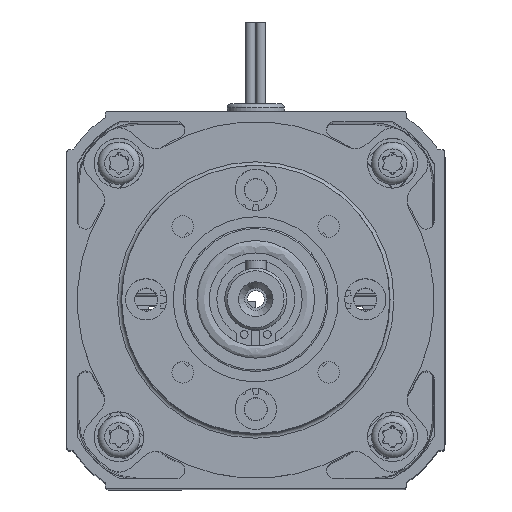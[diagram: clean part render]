
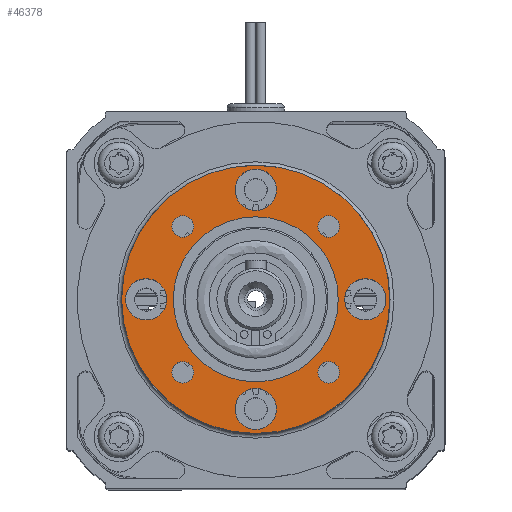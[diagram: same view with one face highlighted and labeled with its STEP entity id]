
A CAD part, top view. The second image highlights one B-rep face of the part: STEP entity #46378.
In plain terms, the highlighted planar face has unit normal (0, 0, 1).
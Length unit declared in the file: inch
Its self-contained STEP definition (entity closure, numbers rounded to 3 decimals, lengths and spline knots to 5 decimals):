
#1512 = EDGE_LOOP ( 'NONE', ( #5412 ) ) ;
#2035 = DIRECTION ( 'NONE',  ( 1., 0., 0. ) ) ;
#2067 = CIRCLE ( 'NONE', #36409, 0.08268 ) ;
#2649 = ORIENTED_EDGE ( 'NONE', *, *, #47899, .T. ) ;
#3218 = DIRECTION ( 'NONE',  ( 1., 0., 0. ) ) ;
#3232 = DIRECTION ( 'NONE',  ( 0., 0., -1. ) ) ;
#3391 = FACE_BOUND ( 'NONE', #35746, .T. ) ;
#3616 = VERTEX_POINT ( 'NONE', #16832 ) ;
#4902 = FACE_BOUND ( 'NONE', #28383, .T. ) ;
#5412 = ORIENTED_EDGE ( 'NONE', *, *, #28960, .T. ) ;
#5536 = EDGE_CURVE ( 'NONE', #41422, #41422, #2067, .T. ) ;
#6440 = FACE_BOUND ( 'NONE', #28326, .T. ) ;
#6777 = EDGE_CURVE ( 'NONE', #3616, #3616, #60656, .T. ) ;
#6897 = EDGE_LOOP ( 'NONE', ( #11897 ) ) ;
#8006 = EDGE_CURVE ( 'NONE', #39933, #39933, #53600, .T. ) ;
#8152 = VERTEX_POINT ( 'NONE', #55608 ) ;
#8517 = CARTESIAN_POINT ( 'NONE',  ( 0.15748, 0.83661, 3.043 ) ) ;
#9186 = CARTESIAN_POINT ( 'NONE',  ( 0., 0.83661, 3.043 ) ) ;
#10473 = ORIENTED_EDGE ( 'NONE', *, *, #6777, .T. ) ;
#11464 = CARTESIAN_POINT ( 'NONE',  ( 0.83661, 0., 3.043 ) ) ;
#11897 = ORIENTED_EDGE ( 'NONE', *, *, #52281, .T. ) ;
#12523 = DIRECTION ( 'NONE',  ( 0., 0., -1. ) ) ;
#12687 = CARTESIAN_POINT ( 'NONE',  ( 0.62992, 0., 3.043 ) ) ;
#13346 = VERTEX_POINT ( 'NONE', #51209 ) ;
#13567 = CIRCLE ( 'NONE', #33969, 0.15748 ) ;
#13977 = DIRECTION ( 'NONE',  ( 1., 0., 0. ) ) ;
#14616 = DIRECTION ( 'NONE',  ( 0., 0., -1. ) ) ;
#14753 = DIRECTION ( 'NONE',  ( 0., 0., -1. ) ) ;
#16033 = ORIENTED_EDGE ( 'NONE', *, *, #8006, .F. ) ;
#16160 = FACE_BOUND ( 'NONE', #32797, .T. ) ;
#16228 = DIRECTION ( 'NONE',  ( 1., 0., 0. ) ) ;
#16462 = CIRCLE ( 'NONE', #17689, 0.08268 ) ;
#16832 = CARTESIAN_POINT ( 'NONE',  ( 0.99409, 0., 3.043 ) ) ;
#17092 = VERTEX_POINT ( 'NONE', #45624 ) ;
#17269 = ORIENTED_EDGE ( 'NONE', *, *, #20666, .T. ) ;
#17511 = AXIS2_PLACEMENT_3D ( 'NONE', #58942, #30510, #2035 ) ;
#17689 = AXIS2_PLACEMENT_3D ( 'NONE', #40746, #12523, #45482 ) ;
#19207 = CARTESIAN_POINT ( 'NONE',  ( 0.55678, -0.55678, 3.043 ) ) ;
#19473 = AXIS2_PLACEMENT_3D ( 'NONE', #60072, #31635, #3218 ) ;
#20222 = EDGE_LOOP ( 'NONE', ( #17269 ) ) ;
#20666 = EDGE_CURVE ( 'NONE', #21485, #21485, #13567, .T. ) ;
#21485 = VERTEX_POINT ( 'NONE', #40693 ) ;
#21509 = DIRECTION ( 'NONE',  ( 0., 0., 1. ) ) ;
#21541 = CARTESIAN_POINT ( 'NONE',  ( 1.02362, 0., 3.043 ) ) ;
#22155 = CARTESIAN_POINT ( 'NONE',  ( -0.67913, 0., 3.043 ) ) ;
#22486 = EDGE_LOOP ( 'NONE', ( #10473 ) ) ;
#23964 = DIRECTION ( 'NONE',  ( 1., 0., 0. ) ) ;
#24494 = ORIENTED_EDGE ( 'NONE', *, *, #5536, .T. ) ;
#24981 = AXIS2_PLACEMENT_3D ( 'NONE', #9186, #42177, #13977 ) ;
#25285 = DIRECTION ( 'NONE',  ( 0., 0., -1. ) ) ;
#26247 = EDGE_LOOP ( 'NONE', ( #50419 ) ) ;
#27820 = EDGE_CURVE ( 'NONE', #29537, #29537, #60865, .T. ) ;
#28326 = EDGE_LOOP ( 'NONE', ( #44234 ) ) ;
#28383 = EDGE_LOOP ( 'NONE', ( #2649 ) ) ;
#28648 = FACE_BOUND ( 'NONE', #1512, .T. ) ;
#28960 = EDGE_CURVE ( 'NONE', #17092, #17092, #31488, .T. ) ;
#29537 = VERTEX_POINT ( 'NONE', #12687 ) ;
#30100 = EDGE_CURVE ( 'NONE', #40633, #40633, #30486, .T. ) ;
#30486 = CIRCLE ( 'NONE', #37829, 0.15748 ) ;
#30510 = DIRECTION ( 'NONE',  ( 0., 0., -1. ) ) ;
#31488 = CIRCLE ( 'NONE', #35333, 0.08268 ) ;
#31635 = DIRECTION ( 'NONE',  ( 0., 0., -1. ) ) ;
#31649 = CARTESIAN_POINT ( 'NONE',  ( 0.55678, 0.55678, 3.043 ) ) ;
#31891 = ORIENTED_EDGE ( 'NONE', *, *, #60806, .T. ) ;
#32797 = EDGE_LOOP ( 'NONE', ( #31891 ) ) ;
#33969 = AXIS2_PLACEMENT_3D ( 'NONE', #53512, #25285, #58374 ) ;
#35333 = AXIS2_PLACEMENT_3D ( 'NONE', #19207, #52177, #23964 ) ;
#35746 = EDGE_LOOP ( 'NONE', ( #24494 ) ) ;
#36404 = DIRECTION ( 'NONE',  ( 1., 0., 0. ) ) ;
#36409 = AXIS2_PLACEMENT_3D ( 'NONE', #31649, #3232, #36404 ) ;
#37829 = AXIS2_PLACEMENT_3D ( 'NONE', #42943, #14753, #47678 ) ;
#39721 = FACE_OUTER_BOUND ( 'NONE', #49095, .T. ) ;
#39933 = VERTEX_POINT ( 'NONE', #21541 ) ;
#40294 = CARTESIAN_POINT ( 'NONE',  ( 0.63945, 0.55678, 3.043 ) ) ;
#40633 = VERTEX_POINT ( 'NONE', #22155 ) ;
#40693 = CARTESIAN_POINT ( 'NONE',  ( 0.15748, -0.83661, 3.043 ) ) ;
#40746 = CARTESIAN_POINT ( 'NONE',  ( -0.55678, 0.55678, 3.043 ) ) ;
#41209 = FACE_BOUND ( 'NONE', #22486, .T. ) ;
#41422 = VERTEX_POINT ( 'NONE', #40294 ) ;
#41701 = AXIS2_PLACEMENT_3D ( 'NONE', #11464, #44431, #16228 ) ;
#42177 = DIRECTION ( 'NONE',  ( 0., 0., -1. ) ) ;
#42676 = FACE_BOUND ( 'NONE', #20222, .T. ) ;
#42787 = CARTESIAN_POINT ( 'NONE',  ( 0., 0., 3.043 ) ) ;
#42943 = CARTESIAN_POINT ( 'NONE',  ( -0.83661, 0., 3.043 ) ) ;
#44234 = ORIENTED_EDGE ( 'NONE', *, *, #30100, .T. ) ;
#44431 = DIRECTION ( 'NONE',  ( 0., 0., -1. ) ) ;
#45482 = DIRECTION ( 'NONE',  ( 1., 0., 0. ) ) ;
#45557 = CIRCLE ( 'NONE', #24981, 0.15748 ) ;
#45624 = CARTESIAN_POINT ( 'NONE',  ( 0.63945, -0.55678, 3.043 ) ) ;
#46363 = CIRCLE ( 'NONE', #19473, 0.08268 ) ;
#46378 = ADVANCED_FACE ( 'NONE', ( #42676, #6440, #53738, #41209, #28648, #4902, #16160, #3391, #52275, #39721 ), #59174, .T. ) ;
#47539 = DIRECTION ( 'NONE',  ( 1., 0., 0. ) ) ;
#47678 = DIRECTION ( 'NONE',  ( 1., 0., 0. ) ) ;
#47899 = EDGE_CURVE ( 'NONE', #8152, #8152, #46363, .T. ) ;
#49095 = EDGE_LOOP ( 'NONE', ( #16033 ) ) ;
#49229 = AXIS2_PLACEMENT_3D ( 'NONE', #42787, #14616, #47539 ) ;
#49733 = CARTESIAN_POINT ( 'NONE',  ( 0., 0., 3.043 ) ) ;
#50419 = ORIENTED_EDGE ( 'NONE', *, *, #27820, .T. ) ;
#51209 = CARTESIAN_POINT ( 'NONE',  ( -0.4741, 0.55678, 3.043 ) ) ;
#52177 = DIRECTION ( 'NONE',  ( 0., 0., -1. ) ) ;
#52275 = FACE_BOUND ( 'NONE', #26247, .T. ) ;
#52281 = EDGE_CURVE ( 'NONE', #55437, #55437, #45557, .T. ) ;
#53317 = AXIS2_PLACEMENT_3D ( 'NONE', #49733, #21509, #54497 ) ;
#53512 = CARTESIAN_POINT ( 'NONE',  ( 0., -0.83661, 3.043 ) ) ;
#53600 = CIRCLE ( 'NONE', #49229, 1.02362 ) ;
#53738 = FACE_BOUND ( 'NONE', #6897, .T. ) ;
#54497 = DIRECTION ( 'NONE',  ( 1., 0., 0. ) ) ;
#55437 = VERTEX_POINT ( 'NONE', #8517 ) ;
#55608 = CARTESIAN_POINT ( 'NONE',  ( -0.4741, -0.55678, 3.043 ) ) ;
#58374 = DIRECTION ( 'NONE',  ( 1., 0., 0. ) ) ;
#58942 = CARTESIAN_POINT ( 'NONE',  ( 0., 0., 3.043 ) ) ;
#59174 = PLANE ( 'NONE',  #53317 ) ;
#60072 = CARTESIAN_POINT ( 'NONE',  ( -0.55678, -0.55678, 3.043 ) ) ;
#60656 = CIRCLE ( 'NONE', #41701, 0.15748 ) ;
#60806 = EDGE_CURVE ( 'NONE', #13346, #13346, #16462, .T. ) ;
#60865 = CIRCLE ( 'NONE', #17511, 0.62992 ) ;
